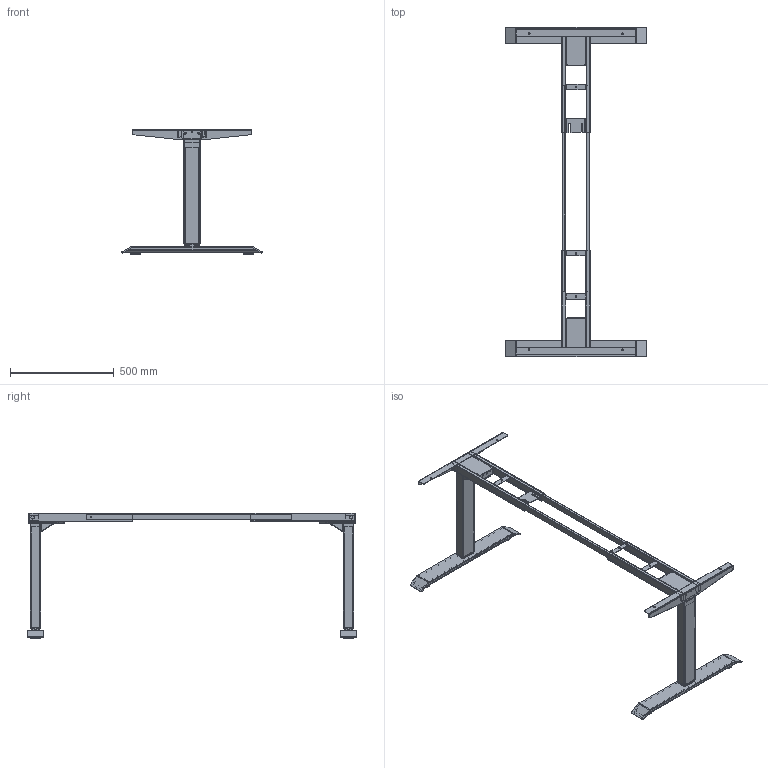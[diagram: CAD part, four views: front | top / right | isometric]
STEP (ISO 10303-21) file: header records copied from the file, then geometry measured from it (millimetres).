
FILE_DESCRIPTION((''),'2;1');
FILE_NAME('JC35TS-RS3-14-36-14_ASM_1_ASM','2020-01-06T09:49:27',('Administrator'),('捷昌驱动'),'CREO PARAMETRIC BY PTC INC, 2018500','CREO PARAMETRIC BY PTC INC, 2018500','');
FILE_SCHEMA(('CONFIG_CONTROL_DESIGN'));
Products named in the file (32): MANIFOLD_SOLID_BREP_96_1; MANIFOLD_SOLID_BREP_95_1; MANIFOLD_SOLID_BREP_94_1; MANIFOLD_SOLID_BREP_93_1; MANIFOLD_SOLID_BREP_92_1; MANIFOLD_SOLID_BREP_91_1; PRT1068; PRT1069; _X2_96355217_X0___X2_7EBF6027_X; MANIFOLD_SOLID_BREP_422_1-5012; MANIFOLD_SOLID_BREP_423_1-5337; MANIFOLD_SOLID_BREP_424_1-5662; MANIFOLD_SOLID_BREP_425_1-5987; MANIFOLD_SOLID_BREP_426_1-9151; MANIFOLD_SOLID_BREP_428_1-9814; MANIFOLD_SOLID_BREP_429_1-10067; MANIFOLD_SOLID_BREP_422_1-11014; MANIFOLD_SOLID_BREP_423_1-11339; MANIFOLD_SOLID_BREP_424_1-11664; MANIFOLD_SOLID_BREP_425_1-11989; MANIFOLD_SOLID_BREP_426_1-15153; MANIFOLD_SOLID_BREP_428_1-15816; MANIFOLD_SOLID_BREP_429_1-16069; 14DJ-17016; 14DJ-18079; PRT1071-19142; PRT1071-22468; PRT1071-25794; PRT1071-29120; PRT1072-32446; PRT1072-33549; JC35TS-RS3-14-36-14_ASM_1_ASM
Assembly tree (31 placements, depth 2):
  JC35TS-RS3-14-36-14_ASM_1_ASM
    MANIFOLD_SOLID_BREP_96_1
    MANIFOLD_SOLID_BREP_95_1
    MANIFOLD_SOLID_BREP_94_1
    MANIFOLD_SOLID_BREP_93_1
    MANIFOLD_SOLID_BREP_92_1
    MANIFOLD_SOLID_BREP_91_1
    PRT1068
    PRT1069
    _X2_96355217_X0___X2_7EBF6027_X
    MANIFOLD_SOLID_BREP_422_1-5012
    MANIFOLD_SOLID_BREP_423_1-5337
    MANIFOLD_SOLID_BREP_424_1-5662
    MANIFOLD_SOLID_BREP_425_1-5987
    MANIFOLD_SOLID_BREP_426_1-9151
    MANIFOLD_SOLID_BREP_428_1-9814
    MANIFOLD_SOLID_BREP_429_1-10067
    MANIFOLD_SOLID_BREP_422_1-11014
    MANIFOLD_SOLID_BREP_423_1-11339
    MANIFOLD_SOLID_BREP_424_1-11664
    MANIFOLD_SOLID_BREP_425_1-11989
    MANIFOLD_SOLID_BREP_426_1-15153
    MANIFOLD_SOLID_BREP_428_1-15816
    MANIFOLD_SOLID_BREP_429_1-16069
    14DJ-17016
    14DJ-18079
    PRT1071-19142
    PRT1071-22468
    PRT1071-25794
    PRT1071-29120
    PRT1072-32446
    PRT1072-33549
Bounding box: 680 x 1590.11 x 605.02 mm (x, y, z)
Volume: 3510102.5 mm3; surface area: 3103713.8 mm2
Topology: 27 solids, 31 shells, 1332 faces, 3691 edges, 2419 vertices
Faces by surface type: cylinder 622, plane 498, bspline 92, torus 60, cone 32, sphere 24, extrusion 4
Entity records: 56696 total; most frequent: CARTESIAN_POINT 21677, ORIENTED_EDGE 7326, DIRECTION 7106, EDGE_CURVE 3667, AXIS2_PLACEMENT_3D 2590, VERTEX_POINT 2419, VECTOR 1926, LINE 1922
